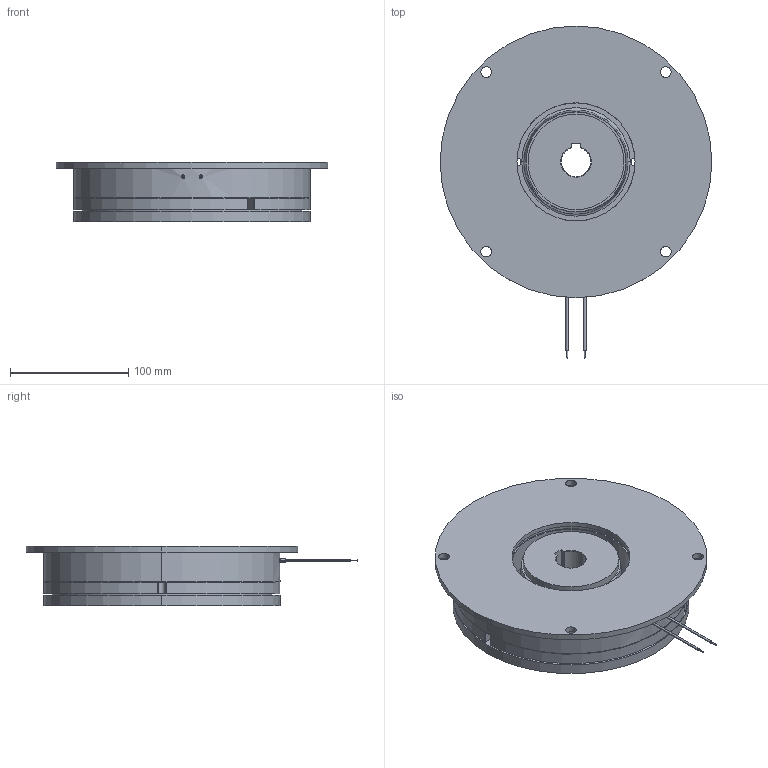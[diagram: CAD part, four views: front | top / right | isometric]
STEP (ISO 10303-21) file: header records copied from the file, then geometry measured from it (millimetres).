
FILE_DESCRIPTION (( 'STEP AP214' ), '1' );
FILE_NAME ('dr_bk_1102-120_mu.STEP', '2021-11-10T10:39:04', ( '' ), ( '' ), 'SwSTEP 2.0', 'SolidWorks 2019', '' );
FILE_SCHEMA (( 'AUTOMOTIVE_DESIGN' ));
Length unit declared in the file: millimetre
Products named in the file (10): 10068875_000; 10068878_000_eingebaut in Ankerteil 11.02.020-0000; 10068878_000_eingebaut in Ankerteil 11.02.010-0009; 10068880_000; 10068876_000; 10068877_000; 10068703_000; dr_bk_1102-120_mu; 10068879_000; 10068881_000
Assembly tree (18 placements, depth 4):
  dr_bk_1102-120_mu
    10068703_000
    10068875_000
      10068880_000
      10068878_000_eingebaut in Ankerteil 11.02.020-0000  x3
      10068881_000  x3
      10068876_000
        10068877_000
        10068879_000
        10068878_000_eingebaut in Ankerteil 11.02.010-0009  x3
        10068881_000  x3
Bounding box: 230 x 281 x 50.55 mm (x, y, z)
Volume: 1458337.2 mm3; surface area: 281516.6 mm2
Topology: 18 solids, 18 shells, 336 faces, 795 edges, 500 vertices
Faces by surface type: cylinder 184, cone 76, plane 54, sphere 12, torus 10
Entity records: 8980 total; most frequent: CARTESIAN_POINT 1688, DIRECTION 1415, ORIENTED_EDGE 1158, AXIS2_PLACEMENT_3D 595, EDGE_CURVE 579, VERTEX_POINT 372, CIRCLE 334, EDGE_LOOP 313
